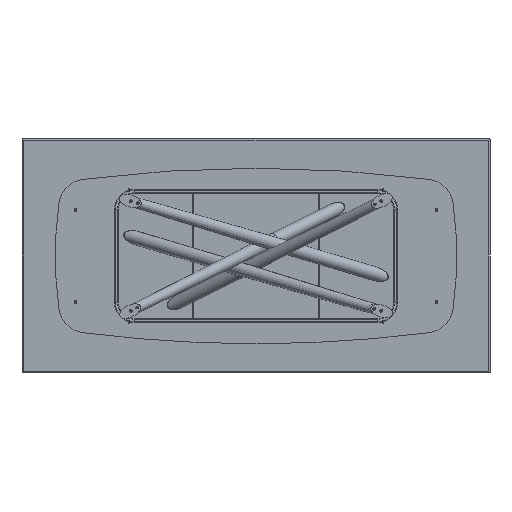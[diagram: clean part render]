
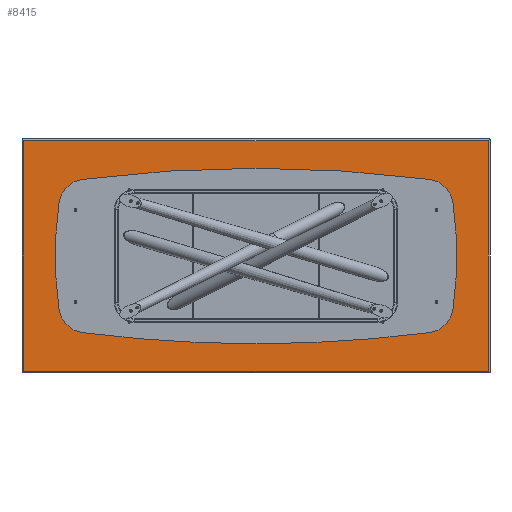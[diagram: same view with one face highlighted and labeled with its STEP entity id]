
A CAD part, front view. The second image highlights one B-rep face of the part: STEP entity #8415.
In plain terms, the highlighted planar face has unit normal (0, -1, 0).
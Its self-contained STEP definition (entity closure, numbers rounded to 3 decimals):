
#40 = ORIENTED_EDGE ( 'NONE', *, *, #3143, .F. ) ;
#171 = VERTEX_POINT ( 'NONE', #9794 ) ;
#253 = CARTESIAN_POINT ( 'NONE',  ( 925., 0., 232.5 ) ) ;
#271 = EDGE_LOOP ( 'NONE', ( #7185, #2970 ) ) ;
#382 = ORIENTED_EDGE ( 'NONE', *, *, #2676, .F. ) ;
#558 = VERTEX_POINT ( 'NONE', #11483 ) ;
#761 = CIRCLE ( 'NONE', #7151, 2.5 ) ;
#792 = FACE_BOUND ( 'NONE', #3261, .T. ) ;
#818 = EDGE_CURVE ( 'NONE', #11533, #4493, #7913, .T. ) ;
#983 = CARTESIAN_POINT ( 'NONE',  ( -925., 0., -237.5 ) ) ;
#1003 = AXIS2_PLACEMENT_3D ( 'NONE', #11764, #1841, #7938 ) ;
#1124 = VECTOR ( 'NONE', #3417, 1000. ) ;
#1402 = CARTESIAN_POINT ( 'NONE',  ( -1190., 0., 0. ) ) ;
#1464 = EDGE_CURVE ( 'NONE', #4493, #11533, #11698, .T. ) ;
#1626 = CARTESIAN_POINT ( 'NONE',  ( -1190., 0., 590. ) ) ;
#1772 = VERTEX_POINT ( 'NONE', #10212 ) ;
#1813 = AXIS2_PLACEMENT_3D ( 'NONE', #9478, #10655, #3458 ) ;
#1818 = CARTESIAN_POINT ( 'NONE',  ( 925., 0., 235. ) ) ;
#1841 = DIRECTION ( 'NONE',  ( 0., 1., 0. ) ) ;
#1966 = FACE_BOUND ( 'NONE', #6612, .T. ) ;
#2032 = CIRCLE ( 'NONE', #9019, 2.5 ) ;
#2243 = CIRCLE ( 'NONE', #1813, 2.5 ) ;
#2343 = CARTESIAN_POINT ( 'NONE',  ( 925., 0., -235. ) ) ;
#2386 = EDGE_CURVE ( 'NONE', #7969, #5473, #8562, .T. ) ;
#2420 = EDGE_CURVE ( 'NONE', #171, #1772, #6378, .T. ) ;
#2552 = DIRECTION ( 'NONE',  ( 0., 0., -1. ) ) ;
#2676 = EDGE_CURVE ( 'NONE', #5045, #11413, #8574, .T. ) ;
#2866 = AXIS2_PLACEMENT_3D ( 'NONE', #3594, #8420, #9534 ) ;
#2881 = AXIS2_PLACEMENT_3D ( 'NONE', #7234, #5173, #7174 ) ;
#2970 = ORIENTED_EDGE ( 'NONE', *, *, #2386, .F. ) ;
#3143 = EDGE_CURVE ( 'NONE', #11413, #5045, #2032, .T. ) ;
#3261 = EDGE_LOOP ( 'NONE', ( #12412, #8072 ) ) ;
#3280 = LINE ( 'NONE', #6341, #1124 ) ;
#3417 = DIRECTION ( 'NONE',  ( -1., 0., 0. ) ) ;
#3458 = DIRECTION ( 'NONE',  ( 0., 0., -1. ) ) ;
#3549 = DIRECTION ( 'NONE',  ( 1., 0., 0. ) ) ;
#3594 = CARTESIAN_POINT ( 'NONE',  ( -925., 0., -235. ) ) ;
#3622 = DIRECTION ( 'NONE',  ( 0., -1., 0. ) ) ;
#3648 = EDGE_CURVE ( 'NONE', #5473, #7969, #2243, .T. ) ;
#3728 = DIRECTION ( 'NONE',  ( 0., 0., -1. ) ) ;
#3782 = FACE_BOUND ( 'NONE', #271, .T. ) ;
#3794 = EDGE_CURVE ( 'NONE', #11648, #10030, #761, .T. ) ;
#4290 = CARTESIAN_POINT ( 'NONE',  ( -925., 0., 232.5 ) ) ;
#4493 = VERTEX_POINT ( 'NONE', #11170 ) ;
#5045 = VERTEX_POINT ( 'NONE', #7331 ) ;
#5047 = EDGE_CURVE ( 'NONE', #1772, #11498, #3280, .T. ) ;
#5053 = EDGE_CURVE ( 'NONE', #558, #171, #11462, .T. ) ;
#5173 = DIRECTION ( 'NONE',  ( 0., -1., 0. ) ) ;
#5284 = CARTESIAN_POINT ( 'NONE',  ( 0., 0., -590. ) ) ;
#5473 = VERTEX_POINT ( 'NONE', #983 ) ;
#5630 = ORIENTED_EDGE ( 'NONE', *, *, #2420, .T. ) ;
#5781 = CARTESIAN_POINT ( 'NONE',  ( 925., 0., 235. ) ) ;
#5817 = AXIS2_PLACEMENT_3D ( 'NONE', #10617, #3622, #2552 ) ;
#6023 = DIRECTION ( 'NONE',  ( 0., -1., 0. ) ) ;
#6024 = FACE_OUTER_BOUND ( 'NONE', #9862, .T. ) ;
#6178 = ORIENTED_EDGE ( 'NONE', *, *, #5047, .T. ) ;
#6341 = CARTESIAN_POINT ( 'NONE',  ( 0., 0., 590. ) ) ;
#6378 = LINE ( 'NONE', #7569, #7536 ) ;
#6496 = AXIS2_PLACEMENT_3D ( 'NONE', #1818, #9038, #8673 ) ;
#6612 = EDGE_LOOP ( 'NONE', ( #10470, #12105 ) ) ;
#6638 = AXIS2_PLACEMENT_3D ( 'NONE', #2343, #7320, #11335 ) ;
#6826 = PLANE ( 'NONE',  #1003 ) ;
#6863 = ORIENTED_EDGE ( 'NONE', *, *, #7731, .T. ) ;
#7021 = ORIENTED_EDGE ( 'NONE', *, *, #5053, .T. ) ;
#7151 = AXIS2_PLACEMENT_3D ( 'NONE', #5781, #11976, #11849 ) ;
#7160 = CARTESIAN_POINT ( 'NONE',  ( -925., 0., 235. ) ) ;
#7174 = DIRECTION ( 'NONE',  ( 0., 0., -1. ) ) ;
#7185 = ORIENTED_EDGE ( 'NONE', *, *, #3648, .F. ) ;
#7234 = CARTESIAN_POINT ( 'NONE',  ( -925., 0., 235. ) ) ;
#7320 = DIRECTION ( 'NONE',  ( 0., -1., 0. ) ) ;
#7331 = CARTESIAN_POINT ( 'NONE',  ( -925., 0., 237.5 ) ) ;
#7337 = CIRCLE ( 'NONE', #6496, 2.5 ) ;
#7536 = VECTOR ( 'NONE', #10395, 1000. ) ;
#7569 = CARTESIAN_POINT ( 'NONE',  ( 1190., 0., 0. ) ) ;
#7696 = LINE ( 'NONE', #1402, #11530 ) ;
#7731 = EDGE_CURVE ( 'NONE', #11498, #558, #7696, .T. ) ;
#7833 = CARTESIAN_POINT ( 'NONE',  ( -925., 0., -232.5 ) ) ;
#7913 = CIRCLE ( 'NONE', #6638, 2.5 ) ;
#7938 = DIRECTION ( 'NONE',  ( 0., 0., 1. ) ) ;
#7969 = VERTEX_POINT ( 'NONE', #7833 ) ;
#8072 = ORIENTED_EDGE ( 'NONE', *, *, #818, .F. ) ;
#8415 = ADVANCED_FACE ( 'NONE', ( #792, #3782, #10781, #1966, #6024 ), #6826, .F. ) ;
#8420 = DIRECTION ( 'NONE',  ( 0., -1., 0. ) ) ;
#8562 = CIRCLE ( 'NONE', #2866, 2.5 ) ;
#8574 = CIRCLE ( 'NONE', #2881, 2.5 ) ;
#8673 = DIRECTION ( 'NONE',  ( 0., 0., -1. ) ) ;
#9019 = AXIS2_PLACEMENT_3D ( 'NONE', #7160, #6023, #12452 ) ;
#9038 = DIRECTION ( 'NONE',  ( 0., -1., 0. ) ) ;
#9478 = CARTESIAN_POINT ( 'NONE',  ( -925., 0., -235. ) ) ;
#9534 = DIRECTION ( 'NONE',  ( 0., 0., -1. ) ) ;
#9794 = CARTESIAN_POINT ( 'NONE',  ( 1190., 0., -590. ) ) ;
#9862 = EDGE_LOOP ( 'NONE', ( #6863, #7021, #5630, #6178 ) ) ;
#10030 = VERTEX_POINT ( 'NONE', #253 ) ;
#10212 = CARTESIAN_POINT ( 'NONE',  ( 1190., 0., 590. ) ) ;
#10395 = DIRECTION ( 'NONE',  ( 0., 0., 1. ) ) ;
#10404 = EDGE_CURVE ( 'NONE', #10030, #11648, #7337, .T. ) ;
#10470 = ORIENTED_EDGE ( 'NONE', *, *, #10404, .F. ) ;
#10617 = CARTESIAN_POINT ( 'NONE',  ( 925., 0., -235. ) ) ;
#10618 = CARTESIAN_POINT ( 'NONE',  ( 925., 0., -232.5 ) ) ;
#10655 = DIRECTION ( 'NONE',  ( 0., -1., 0. ) ) ;
#10781 = FACE_BOUND ( 'NONE', #12493, .T. ) ;
#11170 = CARTESIAN_POINT ( 'NONE',  ( 925., 0., -237.5 ) ) ;
#11335 = DIRECTION ( 'NONE',  ( 0., 0., -1. ) ) ;
#11413 = VERTEX_POINT ( 'NONE', #4290 ) ;
#11462 = LINE ( 'NONE', #5284, #12312 ) ;
#11483 = CARTESIAN_POINT ( 'NONE',  ( -1190., 0., -590. ) ) ;
#11498 = VERTEX_POINT ( 'NONE', #1626 ) ;
#11530 = VECTOR ( 'NONE', #3728, 1000. ) ;
#11533 = VERTEX_POINT ( 'NONE', #10618 ) ;
#11648 = VERTEX_POINT ( 'NONE', #12069 ) ;
#11698 = CIRCLE ( 'NONE', #5817, 2.5 ) ;
#11764 = CARTESIAN_POINT ( 'NONE',  ( 0., 0., 0. ) ) ;
#11849 = DIRECTION ( 'NONE',  ( 0., 0., -1. ) ) ;
#11976 = DIRECTION ( 'NONE',  ( 0., -1., 0. ) ) ;
#12069 = CARTESIAN_POINT ( 'NONE',  ( 925., 0., 237.5 ) ) ;
#12105 = ORIENTED_EDGE ( 'NONE', *, *, #3794, .F. ) ;
#12312 = VECTOR ( 'NONE', #3549, 1000. ) ;
#12412 = ORIENTED_EDGE ( 'NONE', *, *, #1464, .F. ) ;
#12452 = DIRECTION ( 'NONE',  ( 0., 0., -1. ) ) ;
#12493 = EDGE_LOOP ( 'NONE', ( #40, #382 ) ) ;
